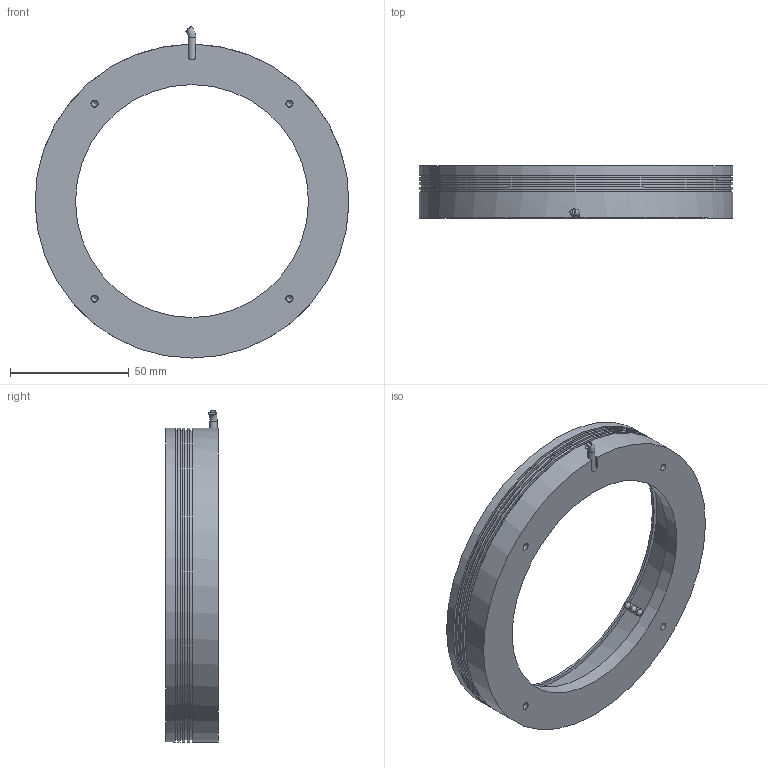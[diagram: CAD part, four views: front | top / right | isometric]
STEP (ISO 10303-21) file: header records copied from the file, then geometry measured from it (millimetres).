
FILE_DESCRIPTION(/* description */ (''),/* implementation_level */ '2;1');
FILE_NAME(/* name */ 'C:\#Vault-WorkDir\Konstruktions-Dokumente\Projekte\Zubehör allgemein\Falcon Beleuchtungen\153-00738_LR 132 xW-24-KFL5.stp',/* time_stamp */ '2018-07-25T09:24:25+02:00',/* author */ ('SensoPart'),/* organization */ ('SensoPart'),/* preprocessor_version */ 'ST-DEVELOPER v17',/* originating_system */ 'Autodesk Inventor 2018',/* authorisation */ '');
FILE_SCHEMA (('AUTOMOTIVE_DESIGN { 1 0 10303 214 3 1 1 }'));
Length unit declared in the file: millimetre
Products named in the file (1): GH-ENG-0026318_Shrinkwrap_1
Bounding box: 132 x 22 x 139.67 mm (x, y, z)
Volume: 94598.1 mm3; surface area: 34435.6 mm2
Topology: 8 solids, 8 shells, 140 faces, 341 edges, 257 vertices
Faces by surface type: cylinder 62, plane 52, cone 19, sphere 6, torus 1
Full cylindrical faces by diameter (mm): 0.5 x24, 2.5 x4, 2.9 x6, 3 x4, 3.1 x1, 3.2 x7, 98 x1, 107.7 x1, 113 x1, 130 x4, 132 x5
Entity records: 5169 total; most frequent: CARTESIAN_POINT 1668, DIRECTION 767, ORIENTED_EDGE 662, AXIS2_PLACEMENT_3D 342, EDGE_CURVE 331, VERTEX_POINT 257, CIRCLE 200, EDGE_LOOP 192
